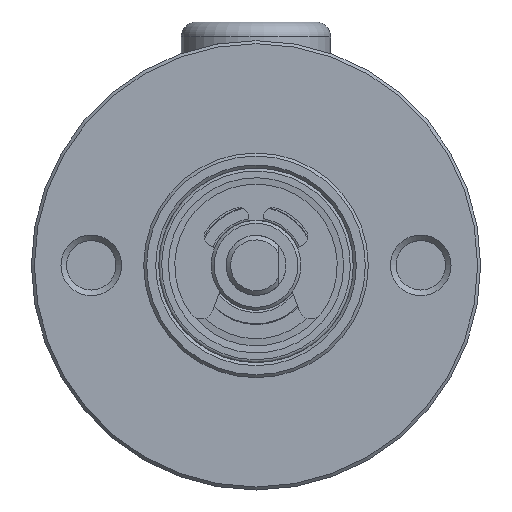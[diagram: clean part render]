
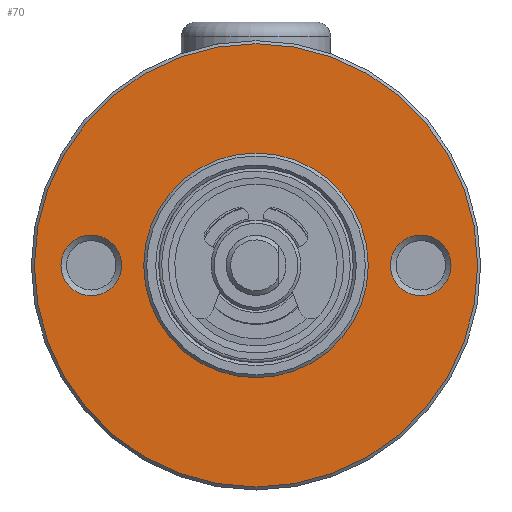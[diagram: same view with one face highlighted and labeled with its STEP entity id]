
A CAD part, front view. The second image highlights one B-rep face of the part: STEP entity #70.
In plain terms, the highlighted planar face has unit normal (0, -1, 0).
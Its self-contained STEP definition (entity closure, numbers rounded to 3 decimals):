
#70 = ADVANCED_FACE ( 'NONE', ( #2659, #1421, #824, #1847 ), #2006, .T. ) ;
#134 = AXIS2_PLACEMENT_3D ( 'NONE', #2098, #216, #1894 ) ;
#150 = VERTEX_POINT ( 'NONE', #2250 ) ;
#151 = EDGE_CURVE ( 'NONE', #709, #709, #1495, .T. ) ;
#216 = DIRECTION ( 'NONE',  ( 0., 1., 0. ) ) ;
#223 = CIRCLE ( 'NONE', #134, 7.5 ) ;
#236 = AXIS2_PLACEMENT_3D ( 'NONE', #2086, #1859, #239 ) ;
#239 = DIRECTION ( 'NONE',  ( 0., 0., 1. ) ) ;
#245 = AXIS2_PLACEMENT_3D ( 'NONE', #2246, #964, #1026 ) ;
#250 = ORIENTED_EDGE ( 'NONE', *, *, #2516, .T. ) ;
#268 = ORIENTED_EDGE ( 'NONE', *, *, #2559, .F. ) ;
#285 = CIRCLE ( 'NONE', #966, 14.8 ) ;
#334 = EDGE_LOOP ( 'NONE', ( #2548 ) ) ;
#356 = CARTESIAN_POINT ( 'NONE',  ( 0., 0., -7.5 ) ) ;
#460 = AXIS2_PLACEMENT_3D ( 'NONE', #1857, #789, #1214 ) ;
#587 = CARTESIAN_POINT ( 'NONE',  ( -11., 0., 2.025 ) ) ;
#709 = VERTEX_POINT ( 'NONE', #1368 ) ;
#789 = DIRECTION ( 'NONE',  ( 0., -1., 0. ) ) ;
#824 = FACE_BOUND ( 'NONE', #334, .T. ) ;
#849 = CIRCLE ( 'NONE', #460, 2.025 ) ;
#960 = EDGE_LOOP ( 'NONE', ( #268 ) ) ;
#964 = DIRECTION ( 'NONE',  ( 0., -1., 0. ) ) ;
#966 = AXIS2_PLACEMENT_3D ( 'NONE', #1415, #1036, #2277 ) ;
#1000 = VERTEX_POINT ( 'NONE', #356 ) ;
#1006 = EDGE_LOOP ( 'NONE', ( #1251 ) ) ;
#1026 = DIRECTION ( 'NONE',  ( 0., 0., 1. ) ) ;
#1036 = DIRECTION ( 'NONE',  ( 0., -1., 0. ) ) ;
#1214 = DIRECTION ( 'NONE',  ( 0., 0., 1. ) ) ;
#1251 = ORIENTED_EDGE ( 'NONE', *, *, #1585, .T. ) ;
#1259 = EDGE_LOOP ( 'NONE', ( #250 ) ) ;
#1368 = CARTESIAN_POINT ( 'NONE',  ( 11., 0., 2.025 ) ) ;
#1415 = CARTESIAN_POINT ( 'NONE',  ( 0., 0., 0. ) ) ;
#1421 = FACE_BOUND ( 'NONE', #960, .T. ) ;
#1436 = VERTEX_POINT ( 'NONE', #587 ) ;
#1495 = CIRCLE ( 'NONE', #236, 2.025 ) ;
#1585 = EDGE_CURVE ( 'NONE', #1000, #1000, #223, .T. ) ;
#1847 = FACE_BOUND ( 'NONE', #1006, .T. ) ;
#1857 = CARTESIAN_POINT ( 'NONE',  ( -11., 0., 0. ) ) ;
#1859 = DIRECTION ( 'NONE',  ( 0., -1., 0. ) ) ;
#1894 = DIRECTION ( 'NONE',  ( 0., 0., -1. ) ) ;
#2006 = PLANE ( 'NONE',  #245 ) ;
#2086 = CARTESIAN_POINT ( 'NONE',  ( 11., 0., 0. ) ) ;
#2098 = CARTESIAN_POINT ( 'NONE',  ( 0., 0., 0. ) ) ;
#2246 = CARTESIAN_POINT ( 'NONE',  ( 0., 0., 0. ) ) ;
#2250 = CARTESIAN_POINT ( 'NONE',  ( 0., 0., 14.8 ) ) ;
#2277 = DIRECTION ( 'NONE',  ( 0., 0., 1. ) ) ;
#2516 = EDGE_CURVE ( 'NONE', #150, #150, #285, .T. ) ;
#2548 = ORIENTED_EDGE ( 'NONE', *, *, #151, .F. ) ;
#2559 = EDGE_CURVE ( 'NONE', #1436, #1436, #849, .T. ) ;
#2659 = FACE_OUTER_BOUND ( 'NONE', #1259, .T. ) ;
